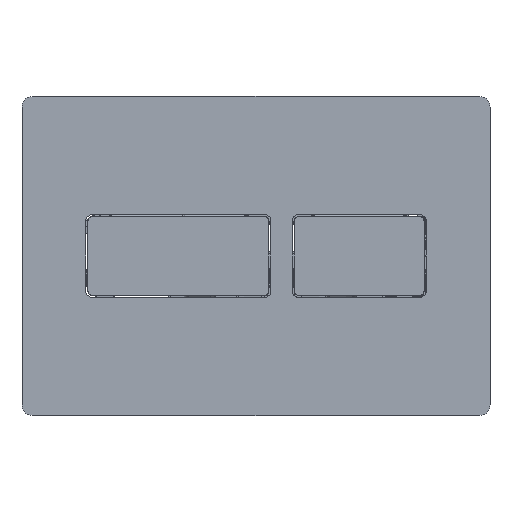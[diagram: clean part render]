
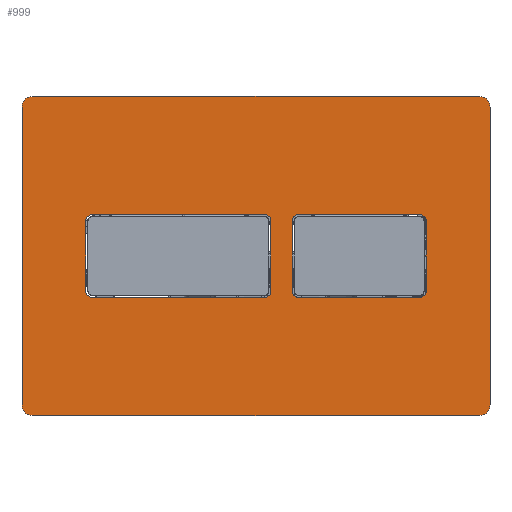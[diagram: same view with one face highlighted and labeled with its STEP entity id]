
A CAD part, front view. The second image highlights one B-rep face of the part: STEP entity #999.
In plain terms, the highlighted planar face has unit normal (0, -1, 0).
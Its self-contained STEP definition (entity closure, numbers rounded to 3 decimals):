
#315=CARTESIAN_POINT('',(-105.,0.,70.));
#316=DIRECTION('',(0.,-1.,0.));
#317=DIRECTION('',(0.,0.,1.));
#318=AXIS2_PLACEMENT_3D('',#315,#316,#317);
#324=DIRECTION('',(-1.,0.,0.));
#325=VECTOR('',#324,210.);
#326=CARTESIAN_POINT('',(105.,0.,75.));
#327=LINE('44002',#326,#325);
#331=CARTESIAN_POINT('',(105.,0.,70.));
#332=DIRECTION('',(0.,-1.,0.));
#333=DIRECTION('',(1.,0.,0.));
#334=AXIS2_PLACEMENT_3D('',#331,#332,#333);
#339=DIRECTION('',(0.,0.,1.));
#340=VECTOR('',#339,140.);
#341=CARTESIAN_POINT('',(110.,0.,-70.));
#342=LINE('44001',#341,#340);
#346=CARTESIAN_POINT('',(105.,0.,-70.));
#347=DIRECTION('',(0.,-1.,0.));
#348=DIRECTION('',(0.,0.,-1.));
#349=AXIS2_PLACEMENT_3D('',#346,#347,#348);
#354=DIRECTION('',(1.,0.,0.));
#355=VECTOR('',#354,210.);
#356=CARTESIAN_POINT('',(-105.,0.,-75.));
#357=LINE('44000',#356,#355);
#361=CARTESIAN_POINT('',(-105.,0.,-70.));
#362=DIRECTION('',(0.,-1.,0.));
#363=DIRECTION('',(-1.,0.,0.));
#364=AXIS2_PLACEMENT_3D('',#361,#362,#363);
#369=DIRECTION('',(0.,0.,-1.));
#370=VECTOR('',#369,140.);
#371=CARTESIAN_POINT('',(-110.,0.,70.));
#372=LINE('43999',#371,#370);
#376=DIRECTION('',(-1.,0.,0.));
#377=VECTOR('',#376,81.);
#378=CARTESIAN_POINT('',(4.,0.,-19.5));
#379=LINE('44295',#378,#377);
#383=DIRECTION('',(0.,0.,-1.));
#384=VECTOR('',#383,33.);
#385=CARTESIAN_POINT('',(7.,0.,16.5));
#386=LINE('44294',#385,#384);
#390=DIRECTION('',(1.,0.,0.));
#391=VECTOR('',#390,81.);
#392=CARTESIAN_POINT('',(-77.,0.,19.5));
#393=LINE('44293',#392,#391);
#397=DIRECTION('',(0.,0.,1.));
#398=VECTOR('',#397,33.);
#399=CARTESIAN_POINT('',(-80.,0.,-16.5));
#400=LINE('44296',#399,#398);
#404=DIRECTION('',(1.,0.,0.));
#405=VECTOR('',#404,57.);
#406=CARTESIAN_POINT('',(20.,0.,19.5));
#407=LINE('44297',#406,#405);
#411=DIRECTION('',(0.,0.,1.));
#412=VECTOR('',#411,33.);
#413=CARTESIAN_POINT('',(17.,0.,-16.5));
#414=LINE('44300',#413,#412);
#418=DIRECTION('',(-1.,0.,0.));
#419=VECTOR('',#418,57.);
#420=CARTESIAN_POINT('',(77.,0.,-19.5));
#421=LINE('44299',#420,#419);
#425=DIRECTION('',(0.,0.,-1.));
#426=VECTOR('',#425,33.);
#427=CARTESIAN_POINT('',(80.,0.,16.5));
#428=LINE('44298',#427,#426);
#626=CARTESIAN_POINT('',(4.,0.,16.5));
#627=DIRECTION('',(0.,1.,0.));
#628=DIRECTION('',(0.,0.,1.));
#629=AXIS2_PLACEMENT_3D('',#626,#627,#628);
#656=CARTESIAN_POINT('',(-77.,0.,16.5));
#657=DIRECTION('',(0.,1.,0.));
#658=DIRECTION('',(-1.,0.,0.));
#659=AXIS2_PLACEMENT_3D('',#656,#657,#658);
#686=CARTESIAN_POINT('',(-77.,0.,-16.5));
#687=DIRECTION('',(0.,1.,0.));
#688=DIRECTION('',(0.,0.,-1.));
#689=AXIS2_PLACEMENT_3D('',#686,#687,#688);
#716=CARTESIAN_POINT('',(4.,0.,-16.5));
#717=DIRECTION('',(0.,1.,0.));
#718=DIRECTION('',(1.,0.,0.));
#719=AXIS2_PLACEMENT_3D('',#716,#717,#718);
#746=CARTESIAN_POINT('',(20.,0.,16.5));
#747=DIRECTION('',(0.,1.,0.));
#748=DIRECTION('',(-1.,0.,0.));
#749=AXIS2_PLACEMENT_3D('',#746,#747,#748);
#776=CARTESIAN_POINT('',(77.,0.,16.5));
#777=DIRECTION('',(0.,1.,0.));
#778=DIRECTION('',(0.,0.,1.));
#779=AXIS2_PLACEMENT_3D('',#776,#777,#778);
#806=CARTESIAN_POINT('',(77.,0.,-16.5));
#807=DIRECTION('',(0.,1.,0.));
#808=DIRECTION('',(1.,0.,0.));
#809=AXIS2_PLACEMENT_3D('',#806,#807,#808);
#836=CARTESIAN_POINT('',(20.,0.,-16.5));
#837=DIRECTION('',(0.,1.,0.));
#838=DIRECTION('',(0.,0.,-1.));
#839=AXIS2_PLACEMENT_3D('',#836,#837,#838);
#848=CARTESIAN_POINT('',(-105.,0.,75.));
#849=VERTEX_POINT('',#848);
#850=CARTESIAN_POINT('',(-110.,0.,70.));
#851=VERTEX_POINT('',#850);
#856=CARTESIAN_POINT('',(110.,0.,70.));
#857=VERTEX_POINT('',#856);
#858=CARTESIAN_POINT('',(105.,0.,75.));
#859=VERTEX_POINT('',#858);
#864=CARTESIAN_POINT('',(105.,0.,-75.));
#865=VERTEX_POINT('',#864);
#866=CARTESIAN_POINT('',(110.,0.,-70.));
#867=VERTEX_POINT('',#866);
#872=CARTESIAN_POINT('',(-110.,0.,-70.));
#873=VERTEX_POINT('',#872);
#874=CARTESIAN_POINT('',(-105.,0.,-75.));
#875=VERTEX_POINT('',#874);
#877=CARTESIAN_POINT('',(7.,0.,16.5));
#879=VERTEX_POINT('',#877);
#881=CARTESIAN_POINT('',(4.,0.,19.5));
#883=VERTEX_POINT('',#881);
#885=CARTESIAN_POINT('',(4.,0.,-19.5));
#887=VERTEX_POINT('',#885);
#889=CARTESIAN_POINT('',(7.,0.,-16.5));
#891=VERTEX_POINT('',#889);
#893=CARTESIAN_POINT('',(-77.,0.,19.5));
#895=VERTEX_POINT('',#893);
#897=CARTESIAN_POINT('',(-80.,0.,16.5));
#899=VERTEX_POINT('',#897);
#901=CARTESIAN_POINT('',(-80.,0.,-16.5));
#903=VERTEX_POINT('',#901);
#905=CARTESIAN_POINT('',(-77.,0.,-19.5));
#907=VERTEX_POINT('',#905);
#909=CARTESIAN_POINT('',(20.,0.,19.5));
#911=VERTEX_POINT('',#909);
#913=CARTESIAN_POINT('',(17.,0.,16.5));
#915=VERTEX_POINT('',#913);
#917=CARTESIAN_POINT('',(80.,0.,16.5));
#919=VERTEX_POINT('',#917);
#921=CARTESIAN_POINT('',(77.,0.,19.5));
#923=VERTEX_POINT('',#921);
#925=CARTESIAN_POINT('',(17.,0.,-16.5));
#927=VERTEX_POINT('',#925);
#929=CARTESIAN_POINT('',(20.,0.,-19.5));
#931=VERTEX_POINT('',#929);
#933=CARTESIAN_POINT('',(77.,0.,-19.5));
#935=VERTEX_POINT('',#933);
#937=CARTESIAN_POINT('',(80.,0.,-16.5));
#939=VERTEX_POINT('',#937);
#940=CARTESIAN_POINT('',(0.,0.,0.));
#941=DIRECTION('',(0.,-1.,0.));
#942=DIRECTION('',(1.,0.,0.));
#943=AXIS2_PLACEMENT_3D('',#940,#941,#942);
#944=PLANE('4878',#943);
#946=ORIENTED_EDGE('43985',*,*,#945,.F.);
#948=ORIENTED_EDGE('44002',*,*,#947,.F.);
#950=ORIENTED_EDGE('43989',*,*,#949,.F.);
#952=ORIENTED_EDGE('44001',*,*,#951,.F.);
#954=ORIENTED_EDGE('43993',*,*,#953,.F.);
#956=ORIENTED_EDGE('44000',*,*,#955,.F.);
#958=ORIENTED_EDGE('43997',*,*,#957,.F.);
#960=ORIENTED_EDGE('43999',*,*,#959,.F.);
#961=EDGE_LOOP('4878',(#946,#948,#950,#952,#954,#956,#958,#960));
#962=FACE_OUTER_BOUND('4878',#961,.F.);
#964=ORIENTED_EDGE('44295',*,*,#963,.F.);
#966=ORIENTED_EDGE('44312',*,*,#965,.F.);
#968=ORIENTED_EDGE('44294',*,*,#967,.F.);
#970=ORIENTED_EDGE('44310',*,*,#969,.F.);
#972=ORIENTED_EDGE('44293',*,*,#971,.F.);
#974=ORIENTED_EDGE('44314',*,*,#973,.F.);
#976=ORIENTED_EDGE('44296',*,*,#975,.F.);
#978=ORIENTED_EDGE('44316',*,*,#977,.F.);
#979=EDGE_LOOP('4878',(#964,#966,#968,#970,#972,#974,#976,#978));
#980=FACE_BOUND('4878',#979,.F.);
#982=ORIENTED_EDGE('44297',*,*,#981,.F.);
#984=ORIENTED_EDGE('44318',*,*,#983,.F.);
#986=ORIENTED_EDGE('44300',*,*,#985,.F.);
#988=ORIENTED_EDGE('44322',*,*,#987,.F.);
#990=ORIENTED_EDGE('44299',*,*,#989,.F.);
#992=ORIENTED_EDGE('44324',*,*,#991,.F.);
#994=ORIENTED_EDGE('44298',*,*,#993,.F.);
#996=ORIENTED_EDGE('44320',*,*,#995,.F.);
#997=EDGE_LOOP('4878',(#982,#984,#986,#988,#990,#992,#994,#996));
#998=FACE_BOUND('4878',#997,.F.);
#999=ADVANCED_FACE('4878',(#962,#980,#998),#944,.T.);
#319=CIRCLE('43985',#318,5.);
#335=CIRCLE('43989',#334,5.);
#350=CIRCLE('43993',#349,5.);
#365=CIRCLE('43997',#364,5.);
#630=CIRCLE('44310',#629,3.);
#660=CIRCLE('44314',#659,3.);
#690=CIRCLE('44316',#689,3.);
#720=CIRCLE('44312',#719,3.);
#750=CIRCLE('44318',#749,3.);
#780=CIRCLE('44320',#779,3.);
#810=CIRCLE('44324',#809,3.);
#840=CIRCLE('44322',#839,3.);
#945=EDGE_CURVE('43985',#849,#851,#319,.T.);
#947=EDGE_CURVE('44002',#859,#849,#327,.T.);
#949=EDGE_CURVE('43989',#857,#859,#335,.T.);
#951=EDGE_CURVE('44001',#867,#857,#342,.T.);
#953=EDGE_CURVE('43993',#865,#867,#350,.T.);
#955=EDGE_CURVE('44000',#875,#865,#357,.T.);
#957=EDGE_CURVE('43997',#873,#875,#365,.T.);
#959=EDGE_CURVE('43999',#851,#873,#372,.T.);
#963=EDGE_CURVE('44295',#887,#907,#379,.T.);
#965=EDGE_CURVE('44312',#891,#887,#720,.T.);
#967=EDGE_CURVE('44294',#879,#891,#386,.T.);
#969=EDGE_CURVE('44310',#883,#879,#630,.T.);
#971=EDGE_CURVE('44293',#895,#883,#393,.T.);
#973=EDGE_CURVE('44314',#899,#895,#660,.T.);
#975=EDGE_CURVE('44296',#903,#899,#400,.T.);
#977=EDGE_CURVE('44316',#907,#903,#690,.T.);
#981=EDGE_CURVE('44297',#911,#923,#407,.T.);
#983=EDGE_CURVE('44318',#915,#911,#750,.T.);
#985=EDGE_CURVE('44300',#927,#915,#414,.T.);
#987=EDGE_CURVE('44322',#931,#927,#840,.T.);
#989=EDGE_CURVE('44299',#935,#931,#421,.T.);
#991=EDGE_CURVE('44324',#939,#935,#810,.T.);
#993=EDGE_CURVE('44298',#919,#939,#428,.T.);
#995=EDGE_CURVE('44320',#923,#919,#780,.T.);
